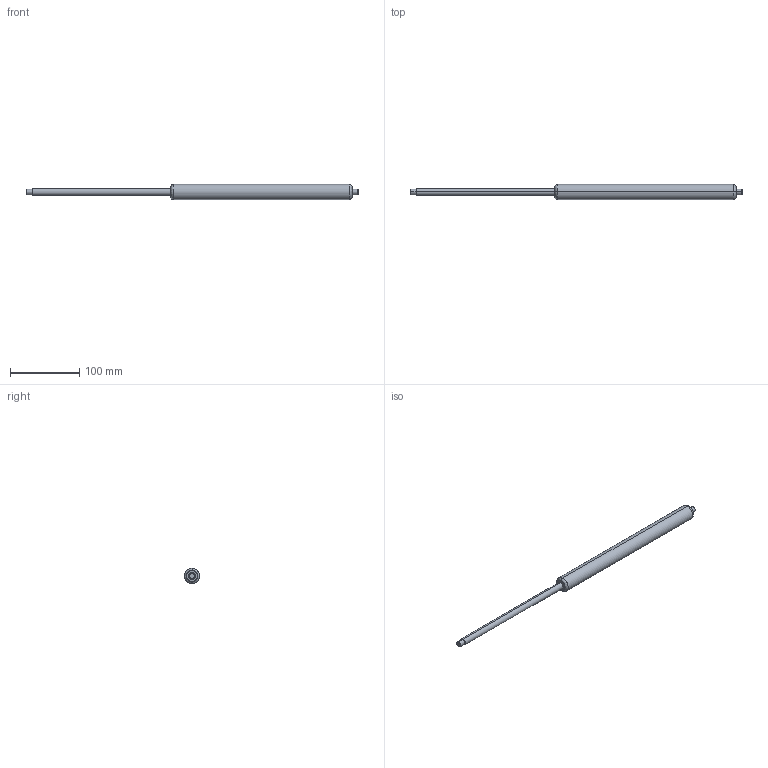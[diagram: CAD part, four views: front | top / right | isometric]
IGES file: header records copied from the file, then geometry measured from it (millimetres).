
Start section: SolidWorks IGES file using analytic representation for surfaces
Bounding box: 481 x 22 x 22 mm (x, y, z)
Surface area: 25453.4 mm2 (no closed solid volume)
Topology: 0 solids, 0 shells, 25 faces, 336 edges, 336 vertices
Faces by surface type: revolution 16, bspline 9
